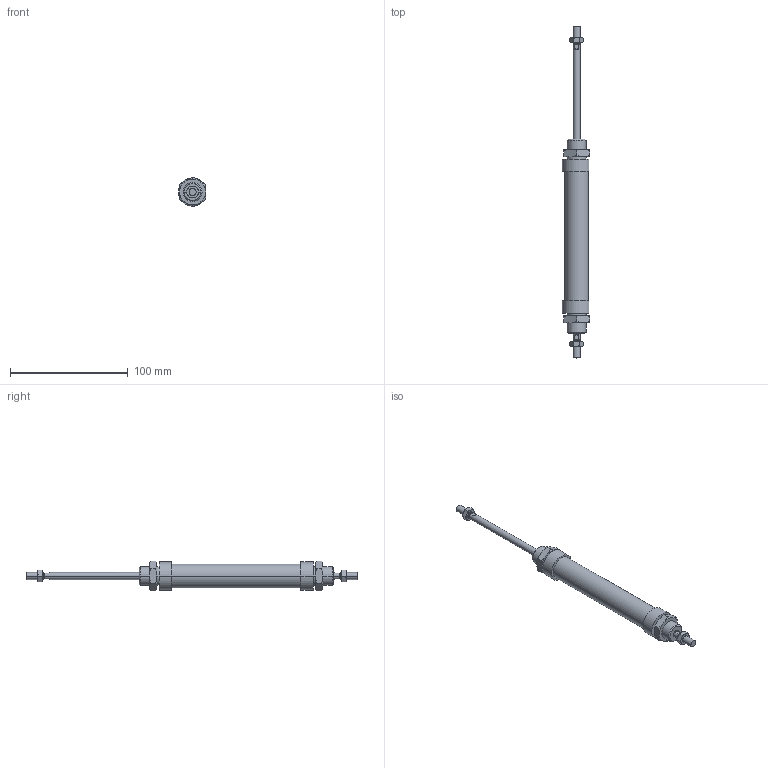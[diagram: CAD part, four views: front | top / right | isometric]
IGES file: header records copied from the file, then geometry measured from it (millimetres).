
Global section: file name: No Iges File Name specified; native system: AutoDesk Inventor R6.0; preprocessor: AutoDesk Inventor Iges Exporter R6.0; author: No Author specified; organization: No Organization specified; date: 20030403.072148; units: millimetre
Bounding box: 23 x 282 x 25.4 mm (x, y, z)
Volume: 57133.9 mm3; surface area: 22784.9 mm2
Topology: 6 solids, 6 shells, 180 faces, 388 edges, 228 vertices
Faces by surface type: cone 68, plane 56, bspline 30, cylinder 20, revolution 6
